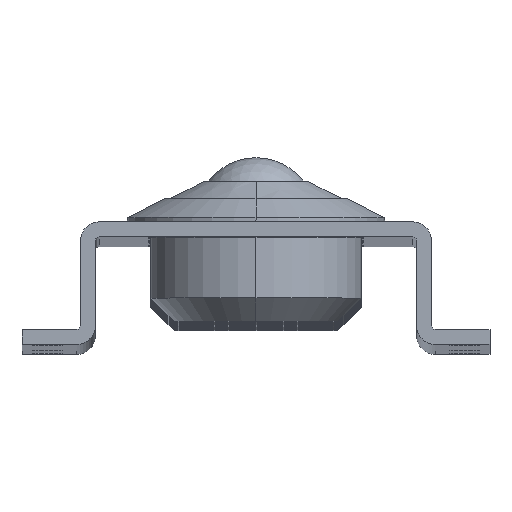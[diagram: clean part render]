
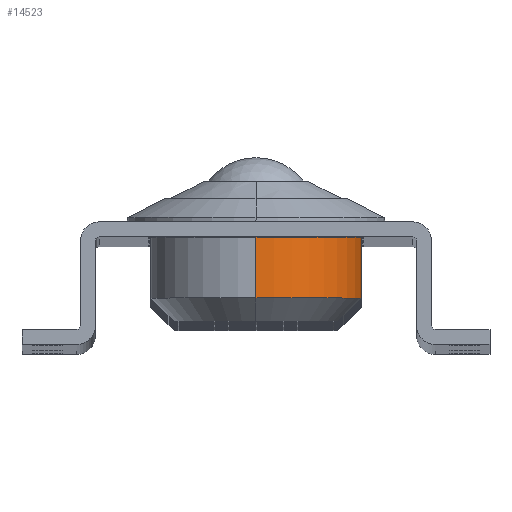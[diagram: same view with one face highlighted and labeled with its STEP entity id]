
A CAD part, top view. The second image highlights one B-rep face of the part: STEP entity #14523.
In plain terms, the highlighted cylindrical face has radius 22.5 mm (diameter 45 mm), a partial arc.
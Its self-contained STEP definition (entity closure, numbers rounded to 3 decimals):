
#95 = VECTOR ( 'NONE', #12573, 1000. ) ;
#410 = CARTESIAN_POINT ( 'NONE',  ( 0., 10., -50. ) ) ;
#439 = EDGE_LOOP ( 'NONE', ( #6614, #4723, #6009, #7414 ) ) ;
#599 = CARTESIAN_POINT ( 'NONE',  ( 0., 26.2, -72.5 ) ) ;
#694 = VERTEX_POINT ( 'NONE', #991 ) ;
#991 = CARTESIAN_POINT ( 'NONE',  ( 0., 10., -27.5 ) ) ;
#1571 = DIRECTION ( 'NONE',  ( 0., 0., 1. ) ) ;
#2038 = CIRCLE ( 'NONE', #14002, 22.5 ) ;
#2257 = CYLINDRICAL_SURFACE ( 'NONE', #6259, 22.5 ) ;
#2692 = DIRECTION ( 'NONE',  ( 0., 0., 1. ) ) ;
#2809 = AXIS2_PLACEMENT_3D ( 'NONE', #3933, #12108, #5113 ) ;
#3843 = CARTESIAN_POINT ( 'NONE',  ( 0., 40., -72.5 ) ) ;
#3933 = CARTESIAN_POINT ( 'NONE',  ( 0., 26.2, -50. ) ) ;
#4423 = CARTESIAN_POINT ( 'NONE',  ( 0., 40., -27.5 ) ) ;
#4723 = ORIENTED_EDGE ( 'NONE', *, *, #11923, .T. ) ;
#5113 = DIRECTION ( 'NONE',  ( 0., 0., 1. ) ) ;
#6009 = ORIENTED_EDGE ( 'NONE', *, *, #13567, .F. ) ;
#6259 = AXIS2_PLACEMENT_3D ( 'NONE', #9652, #7319, #2692 ) ;
#6484 = VERTEX_POINT ( 'NONE', #13549 ) ;
#6614 = ORIENTED_EDGE ( 'NONE', *, *, #13540, .T. ) ;
#7319 = DIRECTION ( 'NONE',  ( 0., 1., 0. ) ) ;
#7414 = ORIENTED_EDGE ( 'NONE', *, *, #14249, .F. ) ;
#8542 = DIRECTION ( 'NONE',  ( 0., 1., 0. ) ) ;
#8631 = VECTOR ( 'NONE', #10885, 1000. ) ;
#9652 = CARTESIAN_POINT ( 'NONE',  ( 0., 40., -50. ) ) ;
#10585 = CIRCLE ( 'NONE', #2809, 22.5 ) ;
#10885 = DIRECTION ( 'NONE',  ( 0., 1., 0. ) ) ;
#11721 = LINE ( 'NONE', #3843, #8631 ) ;
#11923 = EDGE_CURVE ( 'NONE', #13112, #14102, #11721, .T. ) ;
#12106 = LINE ( 'NONE', #4423, #95 ) ;
#12108 = DIRECTION ( 'NONE',  ( 0., 1., 0. ) ) ;
#12271 = CARTESIAN_POINT ( 'NONE',  ( 0., 10., -72.5 ) ) ;
#12573 = DIRECTION ( 'NONE',  ( 0., 1., 0. ) ) ;
#13112 = VERTEX_POINT ( 'NONE', #12271 ) ;
#13540 = EDGE_CURVE ( 'NONE', #694, #13112, #2038, .T. ) ;
#13549 = CARTESIAN_POINT ( 'NONE',  ( 0., 26.2, -27.5 ) ) ;
#13567 = EDGE_CURVE ( 'NONE', #6484, #14102, #10585, .T. ) ;
#14002 = AXIS2_PLACEMENT_3D ( 'NONE', #410, #8542, #1571 ) ;
#14102 = VERTEX_POINT ( 'NONE', #599 ) ;
#14249 = EDGE_CURVE ( 'NONE', #694, #6484, #12106, .T. ) ;
#14523 = ADVANCED_FACE ( 'NONE', ( #14611 ), #2257, .T. ) ;
#14611 = FACE_OUTER_BOUND ( 'NONE', #439, .T. ) ;
